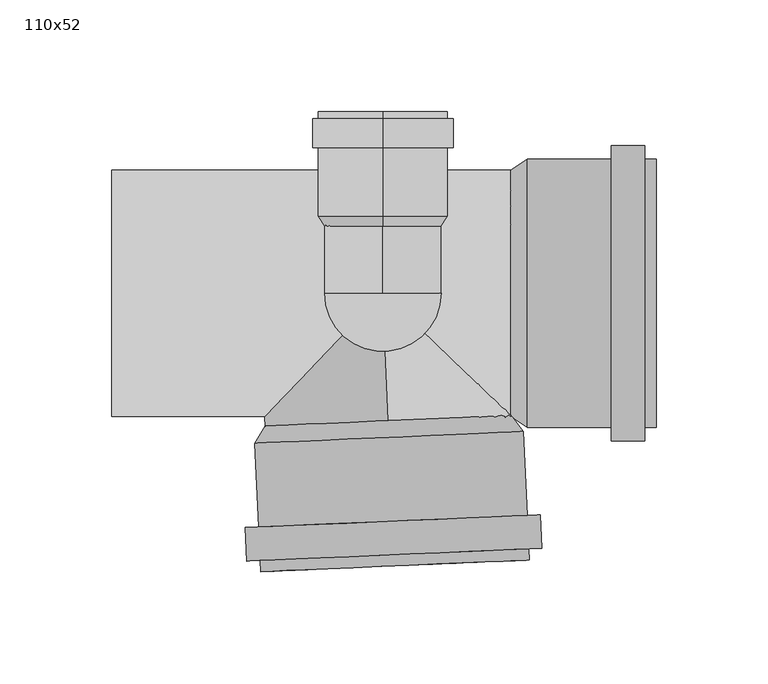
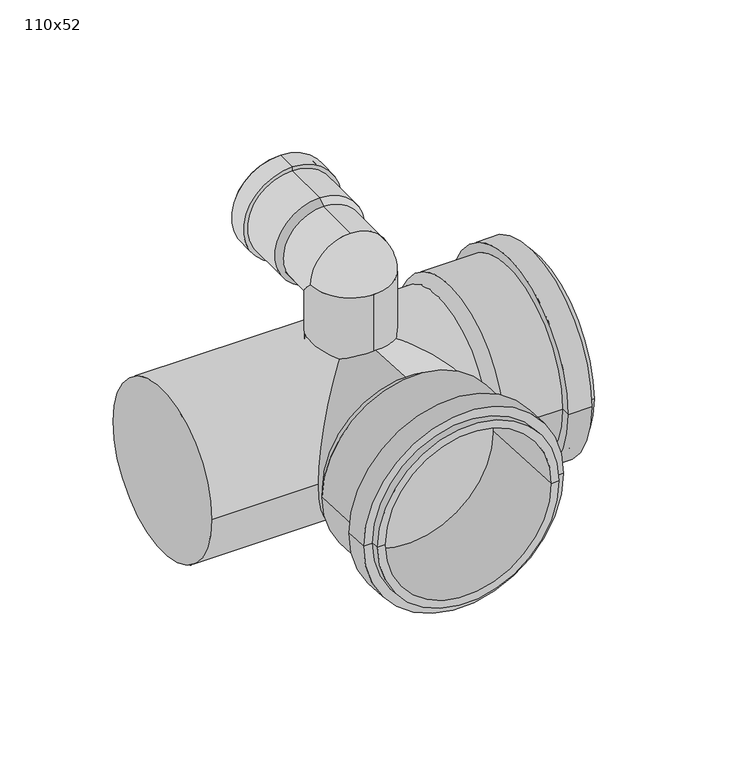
"""IFC4 building model written with IfcOpenShell, lengths in millimetres: pipe fitting geometry, AliaxisFR_Friaphon_LeftMultipleBranch_FR : 110x52."""

import ifcopenshell
import ifcopenshell.guid

model = None  # the IFC model being written
_history = None  # IfcOwnerHistory: only IFC2X3 demands one
_inside = {}  # id of a spatial element -> (the spatial element, [elements in it])
_under = {}  # id of a project, library or spatial element -> (it, [spatial elements below it])
_declared = {}  # id of a project -> (the project, [libraries it declares])
_typed = {}  # id of a type object -> (the type object, [elements of that type])
_made_of = {}  # id of a material, layer set ... -> (it, [elements and type objects made of it])


def new_model(schema):
    """Start an empty IFC model of exactly this schema.

    Asked for "IFC4X3", IfcOpenShell would pick the latest addendum, in which some entities
    have other attributes; the version numbers below select the first issue.
    IFC2X3 requires an IfcOwnerHistory on every rooted entity: one is made here for all.
    """
    global model, _history
    if schema == "IFC4X3":
        model = ifcopenshell.file(schema_version=(4, 3, 0, 0))
    else:
        model = ifcopenshell.file(schema=schema)
    _inside.clear()
    _under.clear()
    _declared.clear()
    _typed.clear()
    _made_of.clear()
    _history = None
    if model.schema == "IFC2X3":
        org = make("IfcOrganization", Name="unknown")
        user = make(
            "IfcPersonAndOrganization",
            ThePerson=make("IfcPerson", FamilyName="unknown"),
            TheOrganization=org,
        )
        app = make(
            "IfcApplication",
            ApplicationDeveloper=org,
            Version="unknown",
            ApplicationFullName="unknown",
            ApplicationIdentifier="unknown",
        )
        _history = make(
            "IfcOwnerHistory",
            OwningUser=user,
            OwningApplication=app,
            ChangeAction="ADDED",
            CreationDate=0,
        )
    return model


def make(cls, **values):
    """One entity of the class cls with the attributes given. An attribute that is None is left unset."""
    return model.create_entity(
        cls, **{name: value for name, value in values.items() if value is not None}
    )


def rooted(cls, **values):
    """An entity with a GlobalId (a new one), such as an element, a storey or a relation."""
    return make(cls, GlobalId=ifcopenshell.guid.new(), OwnerHistory=_history, **values)


def si_unit(unit_type, name, prefix=None):
    """IfcSIUnit, for example si_unit("LENGTHUNIT", "METRE", prefix="MILLI")."""
    return make("IfcSIUnit", UnitType=unit_type, Prefix=prefix, Name=name)


def assignment(units):
    """IfcUnitAssignment: the units of a project."""
    return None if units is None else make("IfcUnitAssignment", Units=units)


def point(xyz):
    """IfcCartesianPoint."""
    return None if xyz is None else make("IfcCartesianPoint", Coordinates=xyz)


def direction(xyz):
    """IfcDirection."""
    return None if xyz is None else make("IfcDirection", DirectionRatios=xyz)


def frame(location, z_axis=None, x_axis=None):
    """IfcAxis2Placement3D, a coordinate frame: its origin and axes. An axis left out is left unset."""
    return make(
        "IfcAxis2Placement3D",
        Location=point(location),
        Axis=direction(z_axis),
        RefDirection=direction(x_axis),
    )


def origin():
    """The frame at (0, 0, 0) with its axes left unset."""
    return frame((0.0, 0.0, 0.0))


def place(relative_to, where):
    """IfcLocalPlacement: puts the frame where relative to a parent placement (None: the world)."""
    return make(
        "IfcLocalPlacement", PlacementRelTo=relative_to, RelativePlacement=where
    )


def context(
    kind, dimensions, precision=None, world=None, true_north=None, identifier=None
):
    """IfcGeometricRepresentationContext, for example the 3D "Model" context."""
    return make(
        "IfcGeometricRepresentationContext",
        ContextIdentifier=identifier,
        ContextType=kind,
        CoordinateSpaceDimension=dimensions,
        Precision=precision,
        WorldCoordinateSystem=world,
        TrueNorth=true_north,
    )


def project(units=None, contexts=None):
    """IfcProject with its units and contexts."""
    return rooted(
        "IfcProject",
        Name="project",
        RepresentationContexts=contexts,
        UnitsInContext=assignment(units),
    )


def spatial(cls, under=None, at=None, **own):
    """A site, building, storey or space (cls), placed at a placement, below another one or the project."""
    s = rooted(cls, ObjectPlacement=at, **own)
    if under is not None:
        _under.setdefault(under.id(), (under, []))[1].append(s)
    return s


def polyline(points):
    """IfcPolyline through the points."""
    return make("IfcPolyline", Points=[point(p) for p in points])


def circle_curve(where, radius):
    """IfcCircle in the frame where."""
    return make("IfcCircle", Position=where, Radius=radius)


def ellipse_curve(where, semi_axis1, semi_axis2):
    """IfcEllipse in the frame where."""
    return make(
        "IfcEllipse", Position=where, SemiAxis1=semi_axis1, SemiAxis2=semi_axis2
    )


def trimmed(basis, trim1, trim2, sense, master):
    """IfcTrimmedCurve: the piece of a basis curve between two trims."""
    return make(
        "IfcTrimmedCurve",
        BasisCurve=basis,
        Trim1=trim1,
        Trim2=trim2,
        SenseAgreement=sense,
        MasterRepresentation=master,
    )


def shape(context_of_items, identifier, shape_type, items):
    """IfcShapeRepresentation: the items that make up one representation, for example the "Body"."""
    return make(
        "IfcShapeRepresentation",
        ContextOfItems=context_of_items,
        RepresentationIdentifier=identifier,
        RepresentationType=shape_type,
        Items=items,
    )


def source(mapping_origin, context_of_items, identifier, shape_type, items):
    """IfcRepresentationMap: a shape defined once, which mapped items show again and again."""
    return make(
        "IfcRepresentationMap",
        MappingOrigin=mapping_origin,
        MappedRepresentation=shape(context_of_items, identifier, shape_type, items),
    )


def transform(
    local_origin,
    x_axis=None,
    y_axis=None,
    z_axis=None,
    scale=None,
    scale2=None,
    scale3=None,
    uniform=True,
):
    """IfcCartesianTransformationOperator3D, or its non-uniform kind. x_axis, y_axis, z_axis: its Axis1, 2, 3."""
    if uniform:
        return make(
            "IfcCartesianTransformationOperator3D",
            Axis1=direction(x_axis),
            Axis2=direction(y_axis),
            LocalOrigin=point(local_origin),
            Scale=scale,
            Axis3=direction(z_axis),
        )
    return make(
        "IfcCartesianTransformationOperator3DnonUniform",
        Axis1=direction(x_axis),
        Axis2=direction(y_axis),
        LocalOrigin=point(local_origin),
        Scale=scale,
        Axis3=direction(z_axis),
        Scale2=scale2,
        Scale3=scale3,
    )


def mapped(mapping_source, mapping_target):
    """IfcMappedItem: shows the shape of a source again, moved by a transform."""
    return make(
        "IfcMappedItem", MappingSource=mapping_source, MappingTarget=mapping_target
    )


def made_of(thing, what):
    """Note that an element or type object is made of a material, layer set ...; save() writes the relation."""
    if what is not None:
        _made_of.setdefault(what.id(), (what, []))[1].append(thing)
    return thing


def element(
    cls,
    number,
    at=None,
    inside=None,
    cuts=None,
    type_object=None,
    material=None,
    context=None,
    identifier="Body",
    shape_type=None,
    held_by="IfcProductDefinitionShape",
    body=None,
    shapes=None,
    **own,
):
    """One element of the class cls, such as IfcWall. Its Tag is "e" and its number.

    at: its placement. inside: the storey or other place that contains it. cuts: it is an
    opening in that element (IfcRelVoidsElement). A single representation is given by context,
    identifier, shape_type and body (its items); several are given by shapes. held_by: the class
    of the entity that holds the representations. save() writes the other relations.
    """
    e = rooted(cls, Tag="e%d" % number, ObjectPlacement=at, **own)
    if body is not None:
        shapes = [shape(context, identifier, shape_type, body)]
    if shapes is not None:
        e.Representation = make(held_by, Representations=shapes)
    if inside is not None:
        _inside.setdefault(inside.id(), (inside, []))[1].append(e)
    if cuts is not None:
        rooted(
            "IfcRelVoidsElement", RelatingBuildingElement=cuts, RelatedOpeningElement=e
        )
    if type_object is not None:
        _typed.setdefault(type_object.id(), (type_object, []))[1].append(e)
    return made_of(e, material)


def aggregate(whole, parts):
    """IfcRelAggregates: a whole, such as a stair, and the parts it consists of."""
    return rooted("IfcRelAggregates", RelatingObject=whole, RelatedObjects=parts)


def save(model, path):
    """Write the relations noted so far, then the file.

    IfcRelAggregates (storeys below a building ...), IfcRelContainedInSpatialStructure (elements
    in a storey), IfcRelDefinesByType, IfcRelAssociatesMaterial and IfcRelDeclares: one each for
    every whole, place, type object, material and project.
    """
    for whole, parts in _under.values():
        aggregate(whole, parts)
    for where, things in _inside.values():
        rooted(
            "IfcRelContainedInSpatialStructure",
            RelatedElements=things,
            RelatingStructure=where,
        )
    for kind, things in _typed.values():
        rooted("IfcRelDefinesByType", RelatedObjects=things, RelatingType=kind)
    for what, things in _made_of.values():
        rooted("IfcRelAssociatesMaterial", RelatedObjects=things, RelatingMaterial=what)
    for by, libraries in _declared.values():
        rooted("IfcRelDeclares", RelatingContext=by, RelatedDefinitions=libraries)
    model.write(path)


def plane_surface(at):
    """IfcPlane: the flat surface through the origin of the frame at, square to its z axis."""
    return make("IfcPlane", Position=at)


def cylinder_surface(at, radius):
    """IfcCylindricalSurface: all points at the distance radius from the z axis of the frame at."""
    return make("IfcCylindricalSurface", Position=at, Radius=radius)


def revolved_surface(curve, axis_point, axis_direction):
    """IfcSurfaceOfRevolution: the curve turned about the line through axis_point along axis_direction."""
    return make(
        "IfcSurfaceOfRevolution",
        SweptCurve=make("IfcArbitraryOpenProfileDef", ProfileType="CURVE", Curve=curve),
        AxisPosition=make("IfcAxis1Placement", Location=point(axis_point), Axis=direction(axis_direction)),
    )


def advanced_brep(points, edges, surfaces, faces):
    """IfcAdvancedBrep: a solid bounded by faces that lie on surfaces and meet in shared edges.

    An edge is (start, end): straight between two places in points (the first is 0);
    or (start, end, curve); or (start, end, curve, False) where it runs against its curve.
    A face is (place in surfaces, loops), or (place, loops, False) where it looks against
    its surface's normal. A loop lists edges by number (the first is 1), with a minus sign
    where the edge is run from its end to its start. The first loop is the outer one.
    """
    corners = [point(p) for p in points]
    vertices = [make("IfcVertexPoint", VertexGeometry=c) for c in corners]
    made = []
    for start, end, *more in edges:
        made.append(
            make(
                "IfcEdgeCurve",
                EdgeStart=vertices[start],
                EdgeEnd=vertices[end],
                EdgeGeometry=more[0] if more else make("IfcPolyline", Points=[corners[start], corners[end]]),
                SameSense=more[1] if len(more) > 1 else True,
            )
        )
    hull = []
    for where, loops, *sense in faces:
        bounds = []
        for j, loop in enumerate(loops):
            ring = [make("IfcOrientedEdge", EdgeElement=made[abs(k) - 1], Orientation=k > 0) for k in loop]
            bounds.append(
                make(
                    "IfcFaceOuterBound" if j == 0 else "IfcFaceBound",
                    Bound=make("IfcEdgeLoop", EdgeList=ring),
                    Orientation=True,
                )
            )
        hull.append(make("IfcAdvancedFace", Bounds=bounds, FaceSurface=surfaces[where], SameSense=sense[0] if sense else True))
    return make("IfcAdvancedBrep", Outer=make("IfcClosedShell", CfsFaces=hull))


def pipe_fitting_110x52_c14a3051(model_context):
    return source(origin(), model_context, "Body", "AdvancedBrep", [
        advanced_brep(
        [(0.0, 81.0, 122.0), (0.0, 81.0, 119.0), (0.0, 81.0, 67.0), (0.0, 81.0, 64.0), (0.0, 65.0, 124.5), (0.0, 78.0, 124.5), (0.0, 78.0, 61.5), (0.0, 65.0, 61.5), (0.0, 65.0, 122.0), (0.0, 65.0, 64.0), (0.0, 34.5, 122.0), (0.0, 34.5, 64.0), (0.0, 30.0, 119.0), (0.0, 30.0, 67.0), (0.0, 78.0, 122.0), (0.0, 78.0, 64.0)],
        [
            (0, 1),
            (1, 2, circle_curve(frame((0.0, 81.0, 93.0), z_axis=(0.0, -1.0, 0.0), x_axis=(0.0, 0.0, -1.0)), 26.0)),
            (2, 3),
            (3, 0, circle_curve(frame((0.0, 81.0, 93.0), z_axis=(0.0, 1.0, 0.0), x_axis=(0.0, 0.0, -1.0)), 29.0)),
            (2, 1, circle_curve(frame((0.0, 81.0, 93.0), z_axis=(0.0, -1.0, 0.0), x_axis=(0.0, 0.0, -1.0)), 26.0)),
            (0, 3, circle_curve(frame((0.0, 81.0, 93.0), z_axis=(0.0, 1.0, 0.0), x_axis=(0.0, 0.0, -1.0)), 29.0)),
            (4, 5),
            (5, 6, circle_curve(frame((0.0, 78.0, 93.0), z_axis=(0.0, -1.0, 0.0), x_axis=(0.0, 0.0, -1.0)), 31.5)),
            (6, 7),
            (7, 4, circle_curve(frame((0.0, 65.0, 93.0), z_axis=(0.0, 1.0, 0.0), x_axis=(0.0, 0.0, -1.0)), 31.5)),
            (6, 5, circle_curve(frame((0.0, 78.0, 93.0), z_axis=(0.0, -1.0, 0.0), x_axis=(0.0, 0.0, -1.0)), 31.5)),
            (4, 7, circle_curve(frame((0.0, 65.0, 93.0), z_axis=(0.0, 1.0, 0.0), x_axis=(0.0, 0.0, -1.0)), 31.5)),
            (8, 4),
            (7, 9),
            (9, 8, circle_curve(frame((0.0, 65.0, 93.0), z_axis=(0.0, 1.0, 0.0), x_axis=(0.0, 0.0, -1.0)), 29.0)),
            (8, 9, circle_curve(frame((0.0, 65.0, 93.0), z_axis=(0.0, 1.0, 0.0), x_axis=(0.0, 0.0, -1.0)), 29.0)),
            (10, 8),
            (9, 11),
            (11, 10, circle_curve(frame((0.0, 34.5, 93.0), z_axis=(0.0, 1.0, 0.0), x_axis=(0.0, 0.0, -1.0)), 29.0)),
            (10, 11, circle_curve(frame((0.0, 34.5, 93.0), z_axis=(0.0, 1.0, 0.0), x_axis=(0.0, 0.0, -1.0)), 29.0)),
            (1, 12),
            (12, 13, circle_curve(frame((0.0, 30.0, 93.0), z_axis=(0.0, -1.0, 0.0), x_axis=(0.0, 0.0, -1.0)), 26.0)),
            (13, 2),
            (13, 12, circle_curve(frame((0.0, 30.0, 93.0), z_axis=(0.0, -1.0, 0.0), x_axis=(0.0, 0.0, -1.0)), 26.0)),
            (12, 10),
            (11, 13),
            (14, 0),
            (3, 15),
            (15, 14, circle_curve(frame((0.0, 78.0, 93.0), z_axis=(0.0, 1.0, 0.0), x_axis=(0.0, 0.0, -1.0)), 29.0)),
            (14, 15, circle_curve(frame((0.0, 78.0, 93.0), z_axis=(0.0, 1.0, 0.0), x_axis=(0.0, 0.0, -1.0)), 29.0)),
            (5, 14),
            (15, 6),
        ],
        [
            plane_surface(frame((0.0, 81.0, 93.0), z_axis=(0.0, 1.0, 0.0), x_axis=(0.0, 0.0, -1.0))),
            cylinder_surface(frame((0.0, 30.0, 93.0), z_axis=(0.0, -1.0, 0.0), x_axis=(0.0, 0.0, -1.0)), 31.5),
            plane_surface(frame((0.0, 65.0, 93.0), z_axis=(0.0, -1.0, 0.0), x_axis=(0.0, 0.0, -1.0))),
            cylinder_surface(frame((0.0, 30.0, 93.0), z_axis=(0.0, -1.0, 0.0), x_axis=(0.0, 0.0, -1.0)), 29.0),
            revolved_surface(polyline([(0.0, 30.0, 67.0), (0.0, 81.0, 67.0)]), (0.0, 30.0, 93.0), (0.0, -1.0, 0.0)),
            revolved_surface(polyline([(0.0, 34.5, 64.0), (0.0, 30.0, 67.0)]), (0.0, 30.0, 93.0), (0.0, -1.0, 0.0)),
            plane_surface(frame((0.0, 78.0, 93.0), z_axis=(0.0, 1.0, 0.0), x_axis=(0.0, 0.0, -1.0))),
        ],
        [
            (0, [[1, 2, 3, 4]]),
            (0, [[-3, 5, -1, 6]]),
            (1, [[7, 8, 9, 10]]),
            (1, [[-9, 11, -7, 12]]),
            (2, [[13, -10, 14, 15]]),
            (2, [[-14, -12, -13, 16]]),
            (3, [[17, -15, 18, 19]]),
            (3, [[-18, -16, -17, 20]]),
            (4, [[21, 22, 23, -2]]),
            (4, [[-23, 24, -21, -5]]),
            (5, [[25, -19, 26, -22]]),
            (5, [[-26, -20, -25, -24]]),
            (3, [[27, -4, 28, 29]]),
            (3, [[-28, -6, -27, 30]]),
            (6, [[31, -29, 32, -8]]),
            (6, [[-32, -30, -31, -11]]),
        ],
    ),
        advanced_brep(
        [(0.0, 33.0, 119.0), (0.0, 33.0, 67.0), (0.0, 0.0, 119.0), (26.0, 0.0, 93.0), (0.0, 26.0, 67.0), (-26.0, 0.0, 93.0), (0.0, -26.0, 10.0), (0.0, 26.0, 10.0), (0.0, -26.0, 93.0)],
        [
            (0, 1, circle_curve(frame((0.0, 33.0, 93.0), z_axis=(0.0, 1.0, 0.0), x_axis=(0.0, 0.0, -1.0)), 26.0)),
            (1, 0, circle_curve(frame((0.0, 33.0, 93.0), z_axis=(0.0, 1.0, 0.0), x_axis=(0.0, 0.0, -1.0)), 26.0)),
            (0, 2),
            (2, 3, circle_curve(frame((0.0, 0.0, 93.0), z_axis=(0.0, 1.0, 0.0), x_axis=(0.0, 0.0, -1.0)), 26.0)),
            (3, 4, ellipse_curve(frame((0.0, 0.0, 93.0), z_axis=(0.0, 0.7071067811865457, 0.7071067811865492), x_axis=(0.0, -0.7071067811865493, 0.7071067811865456)), 36.7695526, 26.0)),
            (4, 1),
            (4, 5, ellipse_curve(frame((0.0, 0.0, 93.0), z_axis=(0.0, 0.7071067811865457, 0.7071067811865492), x_axis=(0.0, -0.7071067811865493, 0.7071067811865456)), 36.7695526, 26.0)),
            (5, 2, circle_curve(frame((0.0, 0.0, 93.0), z_axis=(0.0, 1.0, 0.0), x_axis=(0.0, 0.0, -1.0)), 26.0)),
            (6, 7, circle_curve(frame((0.0, 0.0, 10.0), z_axis=(0.0, 0.0, -1.0), x_axis=(0.0, 1.0, 0.0)), 26.0)),
            (7, 6, circle_curve(frame((0.0, 0.0, 10.0), z_axis=(0.0, 0.0, -1.0), x_axis=(0.0, 1.0, 0.0)), 26.0)),
            (7, 4),
            (3, 8, circle_curve(frame((0.0, 0.0, 93.0), z_axis=(0.0, 0.0, -1.0), x_axis=(0.0, 1.0, 0.0)), 26.0)),
            (8, 6),
            (8, 5, circle_curve(frame((0.0, 0.0, 93.0), z_axis=(0.0, 0.0, -1.0), x_axis=(0.0, 1.0, 0.0)), 26.0)),
        ],
        [
            plane_surface(frame((0.0, 33.0, 93.0), z_axis=(0.0, 1.0, 0.0), x_axis=(1.0, 0.0, 0.0))),
            cylinder_surface(frame((0.0, 0.0, 93.0), z_axis=(0.0, -1.0, 0.0), x_axis=(0.0, 0.0, -1.0)), 26.0),
            plane_surface(frame((0.0, 0.0, 10.0), z_axis=(0.0, 0.0, -1.0), x_axis=(1.0, 0.0, 0.0))),
            cylinder_surface(frame((0.0, 0.0, 10.0), z_axis=(0.0, 0.0, -1.0), x_axis=(0.0, 1.0, 0.0)), 26.0),
            revolved_surface(trimmed(ellipse_curve(frame((0.0, 0.0, 93.0), z_axis=(0.0, -1.0, 0.0), x_axis=(0.0, 0.0, -1.0)), 26.0, 26.0), [point((26.0, 0.0, 93.0))], [point((-26.0, 0.0, 93.0))], True, "CARTESIAN"), (26.0, 0.0, 93.0), (-1.0, 0.0, 0.0)),
        ],
        [
            (0, [[1, 2]]),
            (1, [[3, 4, 5, 6, -1]]),
            (1, [[-6, 7, 8, -3, -2]]),
            (2, [[9, 10]]),
            (3, [[11, -5, 12, 13, -10]]),
            (3, [[-13, 14, -7, -11, -9]]),
            (4, [[-4, -8, -14, -12]]),
        ],
    ),
        advanced_brep(
        [(-54.621328, -124.5010463, 0.0), (65.2644586, -119.2667198, 0.0), (60.2692174, -119.4848167, 0.0), (-49.6260869, -124.2829493, 0.0), (-61.4880051, -104.7817982, 0.0), (70.3863601, -99.024039, 0.0), (71.0406509, -114.0097624, 0.0), (-60.8337143, -119.7675215, 0.0), (-55.4937158, -104.5200818, 0.0), (64.3920708, -99.2857554, 0.0), (-57.1294428, -67.0557735, 0.0), (62.7563438, -61.8214471, 0.0), (57.4339573, -54.5466823, 0.0), (-52.4613471, -59.3448149, 0.0), (-54.839425, -119.5058052, 0.0), (65.0463616, -114.2714787, 0.0)],
        [
            (0, 1, circle_curve(frame((5.3215653, -121.883883, 0.0), z_axis=(0.04361938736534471, -0.9990482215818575, 0.0), x_axis=(0.9990482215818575, 0.04361938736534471, 0.0)), 60.0)),
            (1, 2),
            (2, 3, circle_curve(frame((5.3215653, -121.883883, 0.0), z_axis=(-0.04361938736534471, 0.9990482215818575, 0.0), x_axis=(0.9990482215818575, 0.04361938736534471, 0.0)), 55.0)),
            (3, 0),
            (1, 0, circle_curve(frame((5.3215653, -121.883883, 0.0), z_axis=(0.04361938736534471, -0.9990482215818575, 0.0), x_axis=(0.9990482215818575, 0.04361938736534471, 0.0)), 60.0)),
            (3, 2, circle_curve(frame((5.3215653, -121.883883, 0.0), z_axis=(-0.04361938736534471, 0.9990482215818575, 0.0), x_axis=(0.9990482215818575, 0.04361938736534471, 0.0)), 55.0)),
            (4, 5, circle_curve(frame((4.4491775, -101.9029186, 0.0), z_axis=(0.04361938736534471, -0.9990482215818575, 0.0), x_axis=(0.9990482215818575, 0.04361938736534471, 0.0)), 66.0)),
            (5, 6),
            (6, 7, circle_curve(frame((5.1034683, -116.8886419, 0.0), z_axis=(-0.04361938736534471, 0.9990482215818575, 0.0), x_axis=(0.9990482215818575, 0.04361938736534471, 0.0)), 66.0)),
            (7, 4),
            (5, 4, circle_curve(frame((4.4491775, -101.9029186, 0.0), z_axis=(0.04361938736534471, -0.9990482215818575, 0.0), x_axis=(0.9990482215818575, 0.04361938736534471, 0.0)), 66.0)),
            (7, 6, circle_curve(frame((5.1034683, -116.8886419, 0.0), z_axis=(-0.04361938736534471, 0.9990482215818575, 0.0), x_axis=(0.9990482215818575, 0.04361938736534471, 0.0)), 66.0)),
            (8, 9, circle_curve(frame((4.4491775, -101.9029186, 0.0), z_axis=(0.04361938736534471, -0.9990482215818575, 0.0), x_axis=(0.9990482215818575, 0.04361938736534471, 0.0)), 60.0)),
            (9, 5),
            (4, 8),
            (9, 8, circle_curve(frame((4.4491775, -101.9029186, 0.0), z_axis=(0.04361938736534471, -0.9990482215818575, 0.0), x_axis=(0.9990482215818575, 0.04361938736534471, 0.0)), 60.0)),
            (10, 11, circle_curve(frame((2.8134505, -64.4386103, 0.0), z_axis=(0.04361938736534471, -0.9990482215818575, 0.0), x_axis=(0.9990482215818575, 0.04361938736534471, 0.0)), 60.0)),
            (11, 9),
            (8, 10),
            (11, 10, circle_curve(frame((2.8134505, -64.4386103, 0.0), z_axis=(0.04361938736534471, -0.9990482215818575, 0.0), x_axis=(0.9990482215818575, 0.04361938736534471, 0.0)), 60.0)),
            (2, 12),
            (12, 13, circle_curve(frame((2.4863051, -56.9457486, 0.0), z_axis=(-0.04361938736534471, 0.9990482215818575, 0.0), x_axis=(0.9990482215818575, 0.04361938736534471, 0.0)), 55.0)),
            (13, 3),
            (13, 12, circle_curve(frame((2.4863051, -56.9457486, 0.0), z_axis=(-0.04361938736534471, 0.9990482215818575, 0.0), x_axis=(0.9990482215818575, 0.04361938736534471, 0.0)), 55.0)),
            (12, 11),
            (10, 13),
            (14, 15, circle_curve(frame((5.1034683, -116.8886419, 0.0), z_axis=(0.04361938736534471, -0.9990482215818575, 0.0), x_axis=(0.9990482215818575, 0.04361938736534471, 0.0)), 60.0)),
            (15, 1),
            (0, 14),
            (15, 14, circle_curve(frame((5.1034683, -116.8886419, 0.0), z_axis=(0.04361938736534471, -0.9990482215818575, 0.0), x_axis=(0.9990482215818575, 0.04361938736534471, 0.0)), 60.0)),
            (6, 15),
            (14, 7),
        ],
        [
            plane_surface(frame((5.3215653, -121.883883, 0.0), z_axis=(0.04361938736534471, -0.9990482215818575, 0.0), x_axis=(0.9990482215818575, 0.04361938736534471, 0.0))),
            cylinder_surface(frame((2.4863051, -56.9457486, 0.0), z_axis=(-0.04361938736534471, 0.9990482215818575, 0.0), x_axis=(0.9990482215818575, 0.04361938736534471, 0.0)), 66.0),
            plane_surface(frame((4.4491775, -101.9029186, 0.0), z_axis=(-0.04361938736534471, 0.9990482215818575, 0.0), x_axis=(0.9990482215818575, 0.04361938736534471, 0.0))),
            cylinder_surface(frame((2.4863051, -56.9457486, 0.0), z_axis=(-0.04361938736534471, 0.9990482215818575, 0.0), x_axis=(0.9990482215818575, 0.04361938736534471, 0.0)), 60.0),
            revolved_surface(polyline([(57.43395728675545, -54.54668228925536, 0.0), (60.269217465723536, -119.48481669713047, 0.0)]), (2.4863051, -56.9457486, 0.0), (-0.04361938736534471, 0.9990482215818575, 0.0)),
            revolved_surface(polyline([(62.7563438, -61.8214471, 0.0), (57.4339573, -54.5466823, 0.0)]), (2.4863051, -56.9457486, 0.0), (-0.04361938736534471, 0.9990482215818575, 0.0)),
            plane_surface(frame((5.1034683, -116.8886419, 0.0), z_axis=(0.04361938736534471, -0.9990482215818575, 0.0), x_axis=(0.9990482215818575, 0.04361938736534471, 0.0))),
        ],
        [
            (0, [[1, 2, 3, 4]]),
            (0, [[5, -4, 6, -2]]),
            (1, [[7, 8, 9, 10]]),
            (1, [[11, -10, 12, -8]]),
            (2, [[13, 14, -7, 15]]),
            (2, [[16, -15, -11, -14]]),
            (3, [[17, 18, -13, 19]]),
            (3, [[20, -19, -16, -18]]),
            (4, [[-3, 21, 22, 23]]),
            (4, [[-6, -23, 24, -21]]),
            (5, [[-22, 25, -17, 26]]),
            (5, [[-24, -26, -20, -25]]),
            (3, [[27, 28, -1, 29]]),
            (3, [[30, -29, -5, -28]]),
            (6, [[-9, 31, -27, 32]]),
            (6, [[-12, -32, -30, -31]]),
        ],
    ),
        advanced_brep(
        [(122.0, -60.0, 0.0), (122.0, 60.0, 0.0), (122.0, 55.0, 0.0), (122.0, -55.0, 0.0), (102.0, -66.0, 0.0), (102.0, 66.0, 0.0), (117.0, 66.0, 0.0), (117.0, -66.0, 0.0), (102.0, -60.0, 0.0), (102.0, 60.0, 0.0), (64.5, -60.0, 0.0), (64.5, 60.0, 0.0), (57.0, 55.0, 0.0), (57.0, -55.0, 0.0), (117.0, -60.0, 0.0), (117.0, 60.0, 0.0)],
        [
            (0, 1, circle_curve(frame((122.0, 0.0, 0.0), z_axis=(1.0, 0.0, 0.0), x_axis=(0.0, 1.0, 0.0)), 60.0)),
            (1, 2),
            (2, 3, circle_curve(frame((122.0, 0.0, 0.0), z_axis=(-1.0, 0.0, 0.0), x_axis=(0.0, 1.0, 0.0)), 55.0)),
            (3, 0),
            (1, 0, circle_curve(frame((122.0, 0.0, 0.0), z_axis=(1.0, 0.0, 0.0), x_axis=(0.0, 1.0, 0.0)), 60.0)),
            (3, 2, circle_curve(frame((122.0, 0.0, 0.0), z_axis=(-1.0, 0.0, 0.0), x_axis=(0.0, 1.0, 0.0)), 55.0)),
            (4, 5, circle_curve(frame((102.0, 0.0, 0.0), z_axis=(1.0, 0.0, 0.0), x_axis=(0.0, 1.0, 0.0)), 66.0)),
            (5, 6),
            (6, 7, circle_curve(frame((117.0, 0.0, 0.0), z_axis=(-1.0, 0.0, 0.0), x_axis=(0.0, 1.0, 0.0)), 66.0)),
            (7, 4),
            (5, 4, circle_curve(frame((102.0, 0.0, 0.0), z_axis=(1.0, 0.0, 0.0), x_axis=(0.0, 1.0, 0.0)), 66.0)),
            (7, 6, circle_curve(frame((117.0, 0.0, 0.0), z_axis=(-1.0, 0.0, 0.0), x_axis=(0.0, 1.0, 0.0)), 66.0)),
            (8, 9, circle_curve(frame((102.0, 0.0, 0.0), z_axis=(1.0, 0.0, 0.0), x_axis=(0.0, 1.0, 0.0)), 60.0)),
            (9, 5),
            (4, 8),
            (9, 8, circle_curve(frame((102.0, 0.0, 0.0), z_axis=(1.0, 0.0, 0.0), x_axis=(0.0, 1.0, 0.0)), 60.0)),
            (10, 11, circle_curve(frame((64.5, 0.0, 0.0), z_axis=(1.0, 0.0, 0.0), x_axis=(0.0, 1.0, 0.0)), 60.0)),
            (11, 9),
            (8, 10),
            (11, 10, circle_curve(frame((64.5, 0.0, 0.0), z_axis=(1.0, 0.0, 0.0), x_axis=(0.0, 1.0, 0.0)), 60.0)),
            (2, 12),
            (12, 13, circle_curve(frame((57.0, 0.0, 0.0), z_axis=(-1.0, 0.0, 0.0), x_axis=(0.0, 1.0, 0.0)), 55.0)),
            (13, 3),
            (13, 12, circle_curve(frame((57.0, 0.0, 0.0), z_axis=(-1.0, 0.0, 0.0), x_axis=(0.0, 1.0, 0.0)), 55.0)),
            (12, 11),
            (10, 13),
            (14, 15, circle_curve(frame((117.0, 0.0, 0.0), z_axis=(1.0, 0.0, 0.0), x_axis=(0.0, 1.0, 0.0)), 60.0)),
            (15, 1),
            (0, 14),
            (15, 14, circle_curve(frame((117.0, 0.0, 0.0), z_axis=(1.0, 0.0, 0.0), x_axis=(0.0, 1.0, 0.0)), 60.0)),
            (6, 15),
            (14, 7),
        ],
        [
            plane_surface(frame((122.0, 0.0, 0.0), z_axis=(1.0, 0.0, 0.0), x_axis=(0.0, 1.0, 0.0))),
            cylinder_surface(frame((57.0, 0.0, 0.0), z_axis=(-1.0, 0.0, 0.0), x_axis=(0.0, 1.0, 0.0)), 66.0),
            plane_surface(frame((102.0, 0.0, 0.0), z_axis=(-1.0, 0.0, 0.0), x_axis=(0.0, 1.0, 0.0))),
            cylinder_surface(frame((57.0, 0.0, 0.0), z_axis=(-1.0, 0.0, 0.0), x_axis=(0.0, 1.0, 0.0)), 60.0),
            revolved_surface(polyline([(57.0, 55.0, 0.0), (122.0, 55.0, 0.0)]), (57.0, 0.0, 0.0), (-1.0, 0.0, 0.0)),
            revolved_surface(polyline([(64.5, 60.0, 0.0), (57.0, 55.0, 0.0)]), (57.0, 0.0, 0.0), (-1.0, 0.0, 0.0)),
            plane_surface(frame((117.0, 0.0, 0.0), z_axis=(1.0, 0.0, 0.0), x_axis=(0.0, 1.0, 0.0))),
        ],
        [
            (0, [[1, 2, 3, 4]]),
            (0, [[5, -4, 6, -2]]),
            (1, [[7, 8, 9, 10]]),
            (1, [[11, -10, 12, -8]]),
            (2, [[13, 14, -7, 15]]),
            (2, [[16, -15, -11, -14]]),
            (3, [[17, 18, -13, 19]]),
            (3, [[20, -19, -16, -18]]),
            (4, [[-3, 21, 22, 23]]),
            (4, [[-6, -23, 24, -21]]),
            (5, [[-22, 25, -17, 26]]),
            (5, [[-24, -26, -20, -25]]),
            (3, [[27, 28, -1, 29]]),
            (3, [[30, -29, -5, -28]]),
            (6, [[-9, 31, -27, 32]]),
            (6, [[-12, -32, -30, -31]]),
        ],
    ),
        advanced_brep(
        [(62.0, -55.0, 0.0), (62.0, 55.0, 0.0), (-121.0, -55.0, 0.0), (-121.0, 55.0, 0.0), (57.4537495, -55.0, 0.0), (0.0, 0.0, -55.0), (-52.6510458, -55.0, 0.0), (0.0, 0.0, 55.0), (2.704402, -61.9409897, -55.0), (2.704402, -61.9409897, 55.0)],
        [
            (0, 1, circle_curve(frame((62.0, 0.0, 0.0), z_axis=(1.0, 0.0, 0.0), x_axis=(0.0, 1.0, 0.0)), 55.0)),
            (1, 0, circle_curve(frame((62.0, 0.0, 0.0), z_axis=(1.0, 0.0, 0.0), x_axis=(0.0, 1.0, 0.0)), 55.0)),
            (2, 3, circle_curve(frame((-121.0, 0.0, 0.0), z_axis=(-1.0, 0.0, 0.0), x_axis=(0.0, 1.0, 0.0)), 55.0)),
            (3, 2, circle_curve(frame((-121.0, 0.0, 0.0), z_axis=(-1.0, 0.0, 0.0), x_axis=(0.0, 1.0, 0.0)), 55.0)),
            (0, 4),
            (4, 5, ellipse_curve(frame((0.0, 0.0, 0.0), z_axis=(0.6915130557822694, 0.7223639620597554, 0.0), x_axis=(0.7223639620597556, -0.6915130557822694, 0.0)), 79.5357362, 55.0)),
            (5, 6, ellipse_curve(frame((0.0, 0.0, 0.0), z_axis=(-0.7223639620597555, 0.6915130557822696, 0.0), x_axis=(0.6915130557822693, 0.7223639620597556, 0.0)), 76.1389035, 55.0)),
            (6, 2),
            (3, 1),
            (6, 7, ellipse_curve(frame((0.0, 0.0, 0.0), z_axis=(-0.7223639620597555, 0.6915130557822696, 0.0), x_axis=(0.6915130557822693, 0.7223639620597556, 0.0)), 76.1389035, 55.0)),
            (7, 4, ellipse_curve(frame((0.0, 0.0, 0.0), z_axis=(0.6915130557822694, 0.7223639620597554, 0.0), x_axis=(0.7223639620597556, -0.6915130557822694, 0.0)), 79.5357362, 55.0)),
            (8, 9, circle_curve(frame((2.704402, -61.9409897, 0.0), z_axis=(0.043619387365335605, -0.9990482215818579, 0.0), x_axis=(0.0, 0.0, 1.0)), 55.0)),
            (9, 8, circle_curve(frame((2.704402, -61.9409897, 0.0), z_axis=(0.043619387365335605, -0.9990482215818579, 0.0), x_axis=(0.0, 0.0, 1.0)), 55.0)),
            (8, 5),
            (7, 9),
        ],
        [
            plane_surface(frame((62.0, 55.0, 0.0), z_axis=(1.0, 0.0, 0.0), x_axis=(0.0, 0.0, 1.0))),
            plane_surface(frame((-121.0, 55.0, 0.0), z_axis=(-1.0, 0.0, 0.0), x_axis=(0.0, 0.0, -1.0))),
            cylinder_surface(frame((-121.0, 0.0, 0.0), z_axis=(1.0, 0.0, 0.0), x_axis=(0.0, 1.0, 0.0)), 55.0),
            plane_surface(frame((2.704402, -61.9409897, 55.0), z_axis=(0.04361938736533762, -0.9990482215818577, 0.0), x_axis=(-0.9990482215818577, -0.04361938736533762, 0.0))),
            cylinder_surface(frame((2.704402, -61.9409897, 0.0), z_axis=(-0.043619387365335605, 0.9990482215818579, 0.0), x_axis=(0.0, 0.0, 1.0)), 55.0),
        ],
        [
            (0, [[1, 2]]),
            (1, [[3, 4]]),
            (2, [[-1, 5, 6, 7, 8, -4, 9]]),
            (2, [[-2, -9, -3, -8, 10, 11, -5]]),
            (3, [[12, 13]]),
            (4, [[-12, 14, -6, -11, 15]]),
            (4, [[-13, -15, -10, -7, -14]]),
        ],
    ),
    ])


if __name__ == "__main__":
    model = new_model("IFC4")
    model_context = context("Model", 3, world=origin())
    ifc_project = project(units=[si_unit("LENGTHUNIT", "METRE", prefix="MILLI")], contexts=[model_context])
    site = spatial("IfcSite", under=ifc_project)
    building = spatial("IfcBuilding", under=site)
    placement = place(None, origin())
    pipe_fitting_110x52_shape = pipe_fitting_110x52_c14a3051(model_context)
    element("IfcPipeFitting", 1, ObjectType="AliaxisFR_Friaphon_LeftMultipleBranch_FR : 110x52", at=placement, inside=building, context=model_context, shape_type="MappedRepresentation", body=[
        mapped(pipe_fitting_110x52_shape, transform((0.0, 0.0, 0.0), x_axis=(1.0, 0.0, 0.0), y_axis=(0.0, 1.0, 0.0), z_axis=(0.0, 0.0, 1.0))),
    ])
    save(model, "model.ifc")
